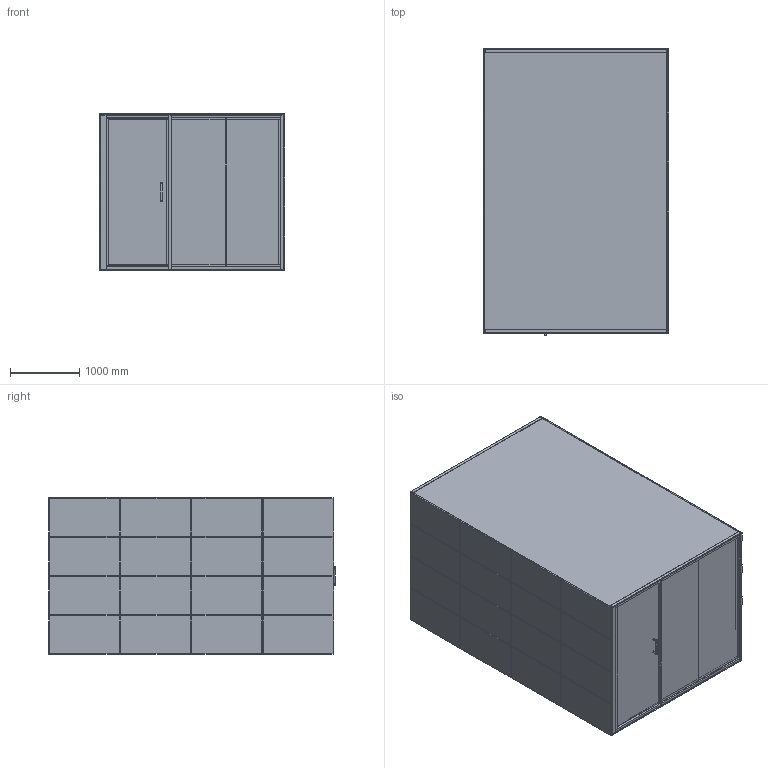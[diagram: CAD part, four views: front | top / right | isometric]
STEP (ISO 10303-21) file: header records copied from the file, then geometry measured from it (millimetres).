
FILE_DESCRIPTION(/* description */ ('','CAx-IF Rec.Pracs.---Representation and Presentation of Product Manufacturing Information (PMI)---4.0---2014-10-13'),/* implementation_level */ '2;1');
FILE_NAME(/* name */ 'SUMMIT8_step.step',/* time_stamp */ '2024-11-29T12:37:04+01:00',/* author */ (''),/* organization */ (''),/* preprocessor_version */ 'ST-DEVELOPER v20',/* originating_system */ 'Autodesk Translation Framework v13.20.0.188',/* authorisation */ '');
FILE_SCHEMA (('AP242_MANAGED_MODEL_BASED_3D_ENGINEERING_MIM_LF { 1 0 10303 442 1 1 4 }'));
Products named in the file (135): GEN4_SUMMIT8_EXPORT; Floor; Component263; Ceiling; Component264; Upholstery_in; 05 (2); 08 (2); 07 (2); 04 (2); 03 (2); 10 (1); 11 (1); 12 (1); 13 (1); 14 (1); 15 (1); 16; 17; 18; 09 (2); 19; 20; 21; 22; 06 (2); 02 (3); Upholstery_ex; 01 (4); 01 (5); 02 (5); Component2(Mirror) (1) (1); 03 (4); LATKA (8); 04 (4); 05 (4); 06 (4); 07 (4); 08 (4); 09 (4)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
Assembly tree (175 placements, depth 5):
  GEN4_SUMMIT8_EXPORT
    Floor
      Component263
    Ceiling
      Component264
    Upholstery_in
      02 (3)  x4
      03 (2)  x4
      04 (2)  x2
      05 (2)
      06 (2)  x8
      07 (2)  x2
      08 (2)
      09 (2)  x5
      10 (1)
      11 (1)
      12 (1)
      13 (1)
      14 (1)
      15 (1)
      16
      17
      18
      19
      20
      21
      22
    Upholstery_ex
      01 (4)
        01 (5)
          LATKA (8)
        02 (5)
          Component2(Mirror) (1) (1)  x2
        03 (4)
          LATKA (8)
        04 (4)
          Latka (1)_1
        05 (4)
          Component2(Mirror) (2)
        06 (4)
          Latka (1)_1
        07 (4)
          Component2(Mirror) (2)
        08 (4)
          Latka (1)_1
        09 (4)
          Component2(Mirror) (2)
        10 (3)
          Latka (1)_1
        11 (3)
          Component2(Mirror) (2)
        12 (3)
          Latka (1)_1
        13 (3)
          Latka (1)_1
        14 (3)
          Latka (1)_1
        15 (3)
          Latka (1)_1
        16 (2)
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Bounding box: 2676 x 4144.95 x 2266 mm (x, y, z)
Volume: 1805431254.3 mm3; surface area: 206129040.5 mm2
Topology: 138 solids, 164 shells, 2840 faces, 6433 edges, 4022 vertices
Faces by surface type: plane 1503, cylinder 770, sphere 287, bspline 209, cone 42, torus 29
Full cylindrical faces by diameter (mm): 4 x6, 5.3 x3, 5.65 x6, 6 x6, 8 x3, 8.3 x3, 12 x2, 20 x4, 36 x6, 40 x2, 44.12 x6, 44.266 x3, 44.8 x3, 44.87 x3, 45.2 x3, 45.27 x3, 70 x2, 76 x2
Entity records: 65889 total; most frequent: CARTESIAN_POINT 22089, DIRECTION 8609, ORIENTED_EDGE 8186, EDGE_CURVE 4093, AXIS2_PLACEMENT_3D 2933, LINE 2743, VECTOR 2743, VERTEX_POINT 2576
